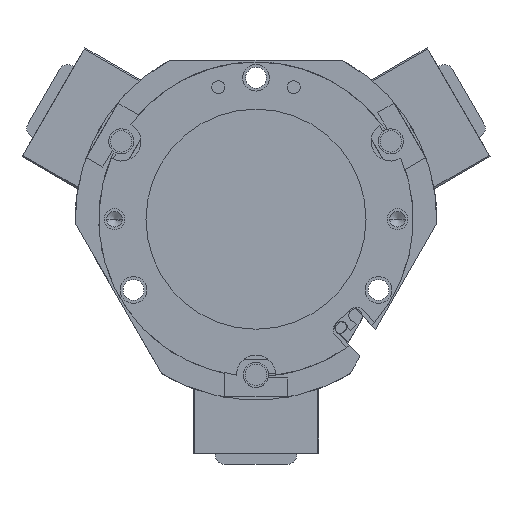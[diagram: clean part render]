
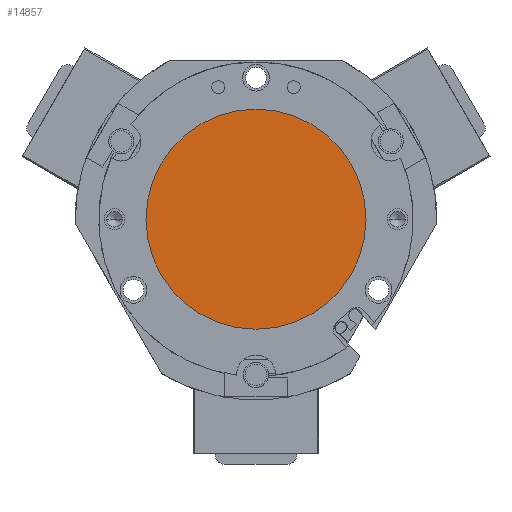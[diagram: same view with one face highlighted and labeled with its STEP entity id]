
A CAD part, front view. The second image highlights one B-rep face of the part: STEP entity #14857.
In plain terms, the highlighted planar face has unit normal (0, -1, 0) as drawn and (0, 1, 0) by its records, which use the part's own axes.
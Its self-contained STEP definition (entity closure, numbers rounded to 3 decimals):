
#242 = VERTEX_POINT ( 'NONE', #16909 ) ;
#1075 = FACE_OUTER_BOUND ( 'NONE', #4409, .T. ) ;
#1142 = CARTESIAN_POINT ( 'NONE',  ( 0., 5.8, 0. ) ) ;
#2216 = AXIS2_PLACEMENT_3D ( 'NONE', #15382, #12256, #3019 ) ;
#2491 = ORIENTED_EDGE ( 'NONE', *, *, #7348, .T. ) ;
#2703 = DIRECTION ( 'NONE',  ( 0., 0., -1. ) ) ;
#3019 = DIRECTION ( 'NONE',  ( 0., 0., 1. ) ) ;
#4328 = CIRCLE ( 'NONE', #19199, 35. ) ;
#4409 = EDGE_LOOP ( 'NONE', ( #2491, #19350 ) ) ;
#5336 = CIRCLE ( 'NONE', #15957, 35. ) ;
#5884 = CARTESIAN_POINT ( 'NONE',  ( 0., 5.8, 0. ) ) ;
#7348 = EDGE_CURVE ( 'NONE', #242, #19436, #5336, .T. ) ;
#7471 = DIRECTION ( 'NONE',  ( 0., 0., -1. ) ) ;
#11925 = DIRECTION ( 'NONE',  ( 0., 1., 0. ) ) ;
#12256 = DIRECTION ( 'NONE',  ( 0., 1., 0. ) ) ;
#14356 = CARTESIAN_POINT ( 'NONE',  ( 0., 5.8, 35. ) ) ;
#14857 = ADVANCED_FACE ( 'NONE', ( #1075 ), #20104, .T. ) ;
#15382 = CARTESIAN_POINT ( 'NONE',  ( 0., 5.8, 0. ) ) ;
#15957 = AXIS2_PLACEMENT_3D ( 'NONE', #1142, #11925, #2703 ) ;
#16821 = DIRECTION ( 'NONE',  ( 0., 1., 0. ) ) ;
#16909 = CARTESIAN_POINT ( 'NONE',  ( 0., 5.8, -35. ) ) ;
#18627 = EDGE_CURVE ( 'NONE', #19436, #242, #4328, .T. ) ;
#19199 = AXIS2_PLACEMENT_3D ( 'NONE', #5884, #16821, #7471 ) ;
#19350 = ORIENTED_EDGE ( 'NONE', *, *, #18627, .T. ) ;
#19436 = VERTEX_POINT ( 'NONE', #14356 ) ;
#20104 = PLANE ( 'NONE',  #2216 ) ;
